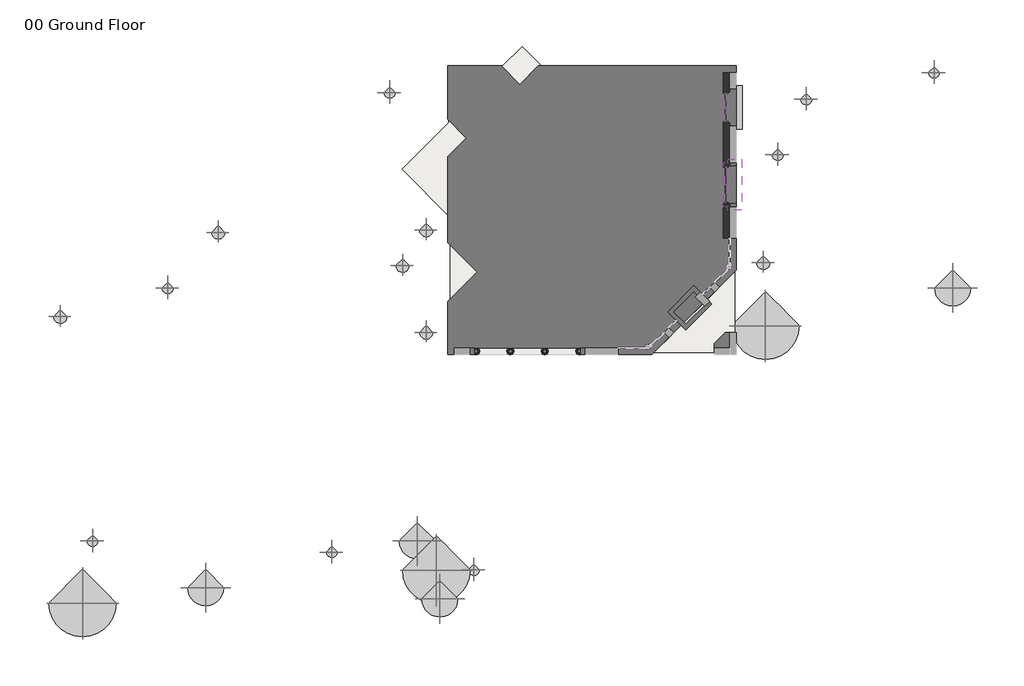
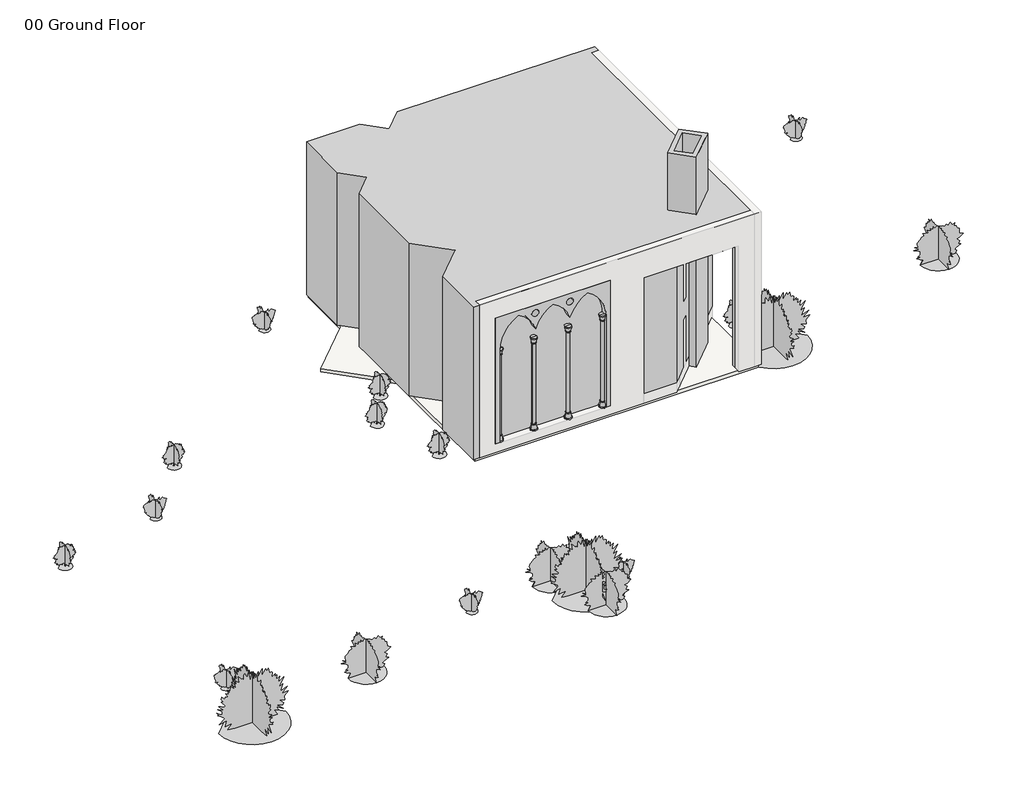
# One storey, part 3 of 3: 34 proxies, 23 members, 7 plates, 1 slab, 1 wall.
"""IFC4 building model written with IfcOpenShell, lengths in millimetres."""

from ifc_helpers import new_model, si_unit, frame, origin, place, context, project, spatial, polyline, circle_curve, faceted_brep, transform, mapped, element, save
from ifc_brep_helpers import plane_surface, revolved_surface, advanced_brep
from components import generic_models_1_generic_models_1_2ffa1991, generic_models_11_generic_models_11_82f0c10e, generic_models_13_generic_models_13_9aa85cf1, generic_models_14_generic_models_14_45f7f6e0, generic_models_20_generic_models_20_f7844d34, generic_models_3_generic_models_3_6c4ee744, generic_models_4_generic_models_3_e1f60436, generic_models_7_generic_models_7_33650070, generic_models_8_generic_models_8_d43dc7e2, generic_models_9_generic_models_9_486bed82, m_rpc_plants_9ef344a8, m_rpc_plants_e0fef716, m_rpc_plants_31e44138, m_rpc_plants_forsythia_3ae10d36, rectangular_mullion_30mm_square_41413a28, rectangular_mullion_30mm_square_532ac5bd, rectangular_mullion_30mm_square_06825e13, rectangular_mullion_30mm_square_b4bb39cd, rectangular_mullion_30mm_square_1db451a7, rectangular_mullion_30mm_square_5c3ddf4e, rectangular_mullion_30mm_square_1da41586, rectangular_mullion_30mm_square_3ebbf34c, rectangular_mullion_30mm_square_9ec87c27, rectangular_mullion_30mm_square_a0f524ba, rectangular_mullion_30mm_square_64775a34, rectangular_mullion_30mm_square_d3a41906, system_panel_glazed_b67a0a7b, system_panel_glazed_beb321c6, system_panel_glazed_12b397c3, system_panel_glazed_9344a8b1, system_panel_glazed_9038425f, system_panel_glazed_8247c2e5

model = new_model("IFC4")

# Units and contexts
model_context = context("Model", 3, world=origin())
ifc_project = project(units=[si_unit("LENGTHUNIT", "METRE", prefix="MILLI")], contexts=[model_context])

# Site, building, storey
site = spatial("IfcSite", under=ifc_project)
building = spatial("IfcBuilding", under=site)
storey = spatial("IfcBuildingStorey", under=building, Name="00 Ground Floor", Elevation=0.0)

# Proxies
placement = place(None, origin())
generic_models_1_generic_models_1_shape = generic_models_1_generic_models_1_2ffa1991(model_context)
element("IfcBuildingElementProxy", 1, Name="Generic Models 1 : Generic Models 1", ObjectType="Generic Models 1 : Generic Models 1", at=placement, inside=storey, context=model_context, shape_type="MappedRepresentation", body=[
    mapped(generic_models_1_generic_models_1_shape, transform((0.0, 0.0, 0.0), x_axis=(1.0, 0.0, 0.0), y_axis=(0.0, 1.0, 0.0), z_axis=(0.0, 0.0, 1.0))),
])
generic_models_11_generic_models_11_shape = generic_models_11_generic_models_11_82f0c10e(model_context)
element("IfcBuildingElementProxy", 2, Name="Generic Models 11 : Generic Models 11", ObjectType="Generic Models 11 : Generic Models 11", at=placement, inside=storey, context=model_context, shape_type="MappedRepresentation", body=[
    mapped(generic_models_11_generic_models_11_shape, transform((0.0, 0.0, 0.0), x_axis=(1.0, 0.0, 0.0), y_axis=(0.0, 1.0, 0.0), z_axis=(0.0, 0.0, 1.0))),
])
generic_models_13_generic_models_13_shape = generic_models_13_generic_models_13_9aa85cf1(model_context)
element("IfcBuildingElementProxy", 3, Name="Generic Models 13 : Generic Models 13", ObjectType="Generic Models 13 : Generic Models 13", at=placement, inside=storey, context=model_context, shape_type="MappedRepresentation", body=[
    mapped(generic_models_13_generic_models_13_shape, transform((-102.50588, 0.0, 0.0), x_axis=(1.0, 0.0, 0.0), y_axis=(0.0, 1.0, 0.0), z_axis=(0.0, 0.0, 1.0))),
])
generic_models_14_generic_models_14_shape = generic_models_14_generic_models_14_45f7f6e0(model_context)
element("IfcBuildingElementProxy", 4, Name="Generic Models 14 : Generic Models 14", ObjectType="Generic Models 14 : Generic Models 14", at=placement, inside=storey, context=model_context, shape_type="MappedRepresentation", body=[
    mapped(generic_models_14_generic_models_14_shape, transform((-150.0, 0.0, 0.0), x_axis=(1.0, 0.0, 0.0), y_axis=(0.0, 1.0, 0.0), z_axis=(0.0, 0.0, 1.0))),
])
generic_models_20_generic_models_20_shape = generic_models_20_generic_models_20_f7844d34(model_context)
element("IfcBuildingElementProxy", 5, Name="Generic Models 20 : Generic Models 20", ObjectType="Generic Models 20 : Generic Models 20", at=placement, inside=storey, context=model_context, shape_type="MappedRepresentation", body=[
    mapped(generic_models_20_generic_models_20_shape, transform((0.0, 0.0, 0.0), x_axis=(1.0, 0.0, 0.0), y_axis=(0.0, 1.0, 0.0), z_axis=(0.0, 0.0, 1.0))),
])
generic_models_3_generic_models_3_shape = generic_models_3_generic_models_3_6c4ee744(model_context)
element("IfcBuildingElementProxy", 6, Name="Generic Models 3 : Generic Models 3", ObjectType="Generic Models 3 : Generic Models 3", at=placement, inside=storey, context=model_context, shape_type="MappedRepresentation", body=[
    mapped(generic_models_3_generic_models_3_shape, transform((0.0, 0.0, 0.0), x_axis=(1.0, 0.0, 0.0), y_axis=(0.0, 1.0, 0.0), z_axis=(0.0, 0.0, 1.0))),
])
generic_models_4_generic_models_3_shape = generic_models_4_generic_models_3_e1f60436(model_context)
element("IfcBuildingElementProxy", 7, Name="Generic Models 4 : Generic Models 3", ObjectType="Generic Models 4 : Generic Models 3", at=placement, inside=storey, context=model_context, shape_type="MappedRepresentation", body=[
    mapped(generic_models_4_generic_models_3_shape, transform((1550.0, 0.0, 0.0), x_axis=(1.0, 0.0, 0.0), y_axis=(0.0, 1.0, 0.0), z_axis=(0.0, 0.0, 1.0))),
])
element("IfcBuildingElementProxy", 8, Name="Generic Models 5 : Generic Models 3", ObjectType="Generic Models 5 : Generic Models 3", at=placement, inside=storey, context=model_context, shape_type="MappedRepresentation", body=[
    mapped(generic_models_4_generic_models_3_shape, transform((3100.0, 0.0, 0.0), x_axis=(1.0, 0.0, 0.0), y_axis=(0.0, 1.0, 0.0), z_axis=(0.0, 0.0, 1.0))),
])
element("IfcBuildingElementProxy", 9, Name="Generic Models 6 : Generic Models 3", ObjectType="Generic Models 6 : Generic Models 3", at=placement, inside=storey, context=model_context, shape_type="MappedRepresentation", body=[
    mapped(generic_models_4_generic_models_3_shape, transform((0.0, 0.0, 0.0), x_axis=(1.0, 0.0, 0.0), y_axis=(0.0, 1.0, 0.0), z_axis=(0.0, 0.0, 1.0))),
])
generic_models_7_generic_models_7_shape = generic_models_7_generic_models_7_33650070(model_context)
element("IfcBuildingElementProxy", 10, Name="Generic Models 7 : Generic Models 7", ObjectType="Generic Models 7 : Generic Models 7", at=placement, inside=storey, context=model_context, shape_type="MappedRepresentation", body=[
    mapped(generic_models_7_generic_models_7_shape, transform((0.0, 0.0, 0.0), x_axis=(1.0, 0.0, 0.0), y_axis=(0.0, 1.0, 0.0), z_axis=(0.0, 0.0, 1.0))),
])
generic_models_8_generic_models_8_shape = generic_models_8_generic_models_8_d43dc7e2(model_context)
element("IfcBuildingElementProxy", 11, Name="Generic Models 8 : Generic Models 8", ObjectType="Generic Models 8 : Generic Models 8", at=placement, inside=storey, context=model_context, shape_type="MappedRepresentation", body=[
    mapped(generic_models_8_generic_models_8_shape, transform((0.0, 0.0, 0.0), x_axis=(1.0, 0.0, 0.0), y_axis=(0.0, 1.0, 0.0), z_axis=(0.0, 0.0, 1.0))),
])
generic_models_9_generic_models_9_shape = generic_models_9_generic_models_9_486bed82(model_context)
element("IfcBuildingElementProxy", 12, Name="Generic Models 9 : Generic Models 9", ObjectType="Generic Models 9 : Generic Models 9", at=placement, inside=storey, context=model_context, shape_type="MappedRepresentation", body=[
    mapped(generic_models_9_generic_models_9_shape, transform((0.0, 0.0, 0.0), x_axis=(1.0, 0.0, 0.0), y_axis=(0.0, 1.0, 0.0), z_axis=(0.0, 0.0, 1.0))),
])
element("IfcBuildingElementProxy", 13, Name="Ground Floor Mass : Ground Floor Mass", ObjectType="Ground Floor Mass : Ground Floor Mass", at=placement, inside=storey, context=model_context, shape_type="Brep", body=[
    faceted_brep([(2404.16295, 13000.0, 0.0), (-0.0001061, 13000.0, 0.0), (-0.0001061, 13000.0, 7281.2615574), (2404.16295, 13000.0, 7281.2615574), (-0.0001061, 10595.836944, 0.0), (-0.0001061, 10595.836944, 7281.2615574), (843.1456444, 9752.6911935, 0.0), (843.1456444, 9752.6911935, 7281.2615574), (-0.0001061, 8909.545443, 0.0), (-0.0001061, 8909.545443, 7281.2615574), (-0.0001061, 5042.6406871, 0.0), (-0.0001061, 5042.6406871, 7281.2615574), (1330.3656932, 3712.2748879, 0.0), (1330.3656932, 3712.2748879, 7281.2615574), (-0.0001061, 2381.9090886, 0.0), (-0.0001061, 2381.9090886, 7281.2615574), (-0.0001061, -0.0002183, 0.0), (-0.0001061, -0.0002183, 7281.2615574), (9192.387831, -0.0002183, 0.0), (9192.387831, -0.0002183, 6000.0), (12000.0001123, -0.0002183, 6000.0), (12000.0001123, -0.0002183, 0.0), (13000.0001123, -0.0002183, 0.0), (13000.0001123, -0.0002183, 7281.2615574), (6200.000082, -0.0002183, 6400.0), (6200.000082, -0.0002183, 400.0), (1000.000082, -0.0002183, 400.0), (1000.000082, -0.0002183, 6400.0), (13000.0001123, 999.9997817, 0.0), (13000.0001123, 999.9997817, 6000.0), (13000.0001123, 3807.6120629, 6000.0), (13000.0001123, 3807.6120629, 0.0), (13000.0001123, 13000.0, 0.0), (13000.0001123, 13000.0, 7281.2615574), (4090.454451, 13000.0, 0.0), (4090.454451, 13000.0, 7281.2615574), (3247.3087005, 12156.8542495, 0.0), (3247.3087005, 12156.8542495, 7281.2615574), (12000.0001123, 499.9997817, 0.0), (12500.0001123, 999.9997817, 0.0), (12000.0001123, 499.9997817, 6000.0), (12500.0001123, 999.9997817, 6000.0), (6200.000082, 300.0, 6400.0), (6200.000082, 300.0, 400.0), (1000.000082, 300.0, 400.0), (1000.000082, 300.0, 6400.0)], [[[0, 1, 2, 3]], [[2, 1, 4, 5]], [[5, 4, 6, 7]], [[7, 6, 8, 9]], [[9, 8, 10, 11]], [[11, 10, 12, 13]], [[13, 12, 14, 15]], [[15, 14, 16, 17]], [[17, 16, 18, 19, 20, 21, 22, 23], [24, 25, 26, 27]], [[23, 22, 28, 29, 30, 31, 32, 33]], [[33, 32, 34, 35]], [[35, 34, 36, 37]], [[0, 3, 37, 36]], [[3, 2, 5, 7, 9, 11, 13, 15, 17, 23, 33, 35, 37]], [[1, 0, 36, 34, 32, 31, 18, 16, 14, 12, 10, 8, 6, 4]], [[22, 21, 38, 39, 28]], [[30, 19, 18, 31]], [[20, 40, 38, 21]], [[40, 41, 39, 38]], [[41, 29, 28, 39]], [[19, 30, 29, 41, 40, 20]], [[24, 42, 43, 25]], [[25, 43, 44, 26]], [[26, 44, 45, 27]], [[42, 24, 27, 45]], [[43, 42, 45, 44]]]),
])
m_rpc_plants_shape = m_rpc_plants_9ef344a8(model_context)
element("IfcBuildingElementProxy", 14, Name="M_RPC Plants : Meadowlark", ObjectType="M_RPC Plants : Meadowlark", at=placement, inside=storey, context=model_context, shape_type="MappedRepresentation", body=[
    mapped(m_rpc_plants_shape, transform((-2605.4102516, 11800.0, 0.0), x_axis=(1.0, 0.0, 0.0), y_axis=(0.0, 1.0, 0.0), z_axis=(0.0, 0.0, 1.0))),
])
element("IfcBuildingElementProxy", 15, Name="M_RPC Plants : Meadowlark", ObjectType="M_RPC Plants : Meadowlark", at=placement, inside=storey, context=model_context, shape_type="MappedRepresentation", body=[
    mapped(m_rpc_plants_shape, transform((14857.879689, 9000.0, -150.0), x_axis=(1.0, 0.0, 0.0), y_axis=(0.0, 1.0, 0.0), z_axis=(0.0, 0.0, 1.0))),
])
element("IfcBuildingElementProxy", 16, Name="M_RPC Plants : Meadowlark", ObjectType="M_RPC Plants : Meadowlark", at=placement, inside=storey, context=model_context, shape_type="MappedRepresentation", body=[
    mapped(m_rpc_plants_shape, transform((16143.9359249, 11500.0, 80.0), x_axis=(1.0, 0.0, 0.0), y_axis=(0.0, 1.0, 0.0), z_axis=(0.0, 0.0, 1.0))),
])
element("IfcBuildingElementProxy", 17, Name="M_RPC Plants : Meadowlark", ObjectType="M_RPC Plants : Meadowlark", at=placement, inside=storey, context=model_context, shape_type="MappedRepresentation", body=[
    mapped(m_rpc_plants_shape, transform((21892.3880493, 12700.0, 0.0), x_axis=(1.0, 0.0, 0.0), y_axis=(0.0, 1.0, 0.0), z_axis=(0.0, 0.0, 1.0))),
])
element("IfcBuildingElementProxy", 18, Name="M_RPC Plants : Meadowlark", ObjectType="M_RPC Plants : Meadowlark", at=placement, inside=storey, context=model_context, shape_type="MappedRepresentation", body=[
    mapped(m_rpc_plants_shape, transform((-12591.9884741, 2999.9997817, -150.0), x_axis=(1.0, 0.0, 0.0), y_axis=(0.0, 1.0, 0.0), z_axis=(0.0, 0.0, 1.0))),
])
element("IfcBuildingElementProxy", 19, Name="M_RPC Plants : Meadowlark", ObjectType="M_RPC Plants : Meadowlark", at=placement, inside=storey, context=model_context, shape_type="MappedRepresentation", body=[
    mapped(m_rpc_plants_shape, transform((-15980.8610869, -8400.0, -150.0), x_axis=(1.0, 0.0, 0.0), y_axis=(0.0, 1.0, 0.0), z_axis=(0.0, 0.0, 1.0))),
])
element("IfcBuildingElementProxy", 20, Name="M_RPC Plants : Meadowlark", ObjectType="M_RPC Plants : Meadowlark", at=placement, inside=storey, context=model_context, shape_type="MappedRepresentation", body=[
    mapped(m_rpc_plants_shape, transform((-5204.2461784, -8900.0, 10.0), x_axis=(1.0, 0.0, 0.0), y_axis=(0.0, 1.0, 0.0), z_axis=(0.0, 0.0, 1.0))),
])
element("IfcBuildingElementProxy", 21, Name="M_RPC Plants : Meadowlark", ObjectType="M_RPC Plants : Meadowlark", at=placement, inside=storey, context=model_context, shape_type="MappedRepresentation", body=[
    mapped(m_rpc_plants_shape, transform((1186.2653021, -9700.0, -230.0), x_axis=(1.0, 0.0, 0.0), y_axis=(0.0, 1.0, 0.0), z_axis=(0.0, 0.0, 1.0))),
])
m_rpc_plants_2_shape = m_rpc_plants_e0fef716(model_context)
element("IfcBuildingElementProxy", 22, Name="M_RPC Plants : Oleander", ObjectType="M_RPC Plants : Oleander", at=placement, inside=storey, context=model_context, shape_type="MappedRepresentation", body=[
    mapped(m_rpc_plants_2_shape, transform((22729.9608569, 2999.9997817, -200.0), x_axis=(1.0, 0.0, 0.0), y_axis=(0.0, 1.0, 0.0), z_axis=(0.0, 0.0, 1.0))),
])
element("IfcBuildingElementProxy", 23, Name="M_RPC Plants : Oleander", ObjectType="M_RPC Plants : Oleander", at=placement, inside=storey, context=model_context, shape_type="MappedRepresentation", body=[
    mapped(m_rpc_plants_2_shape, transform((-10887.6554614, -10500.0, 40.0), x_axis=(1.0, 0.0, 0.0), y_axis=(0.0, 1.0, 0.0), z_axis=(0.0, 0.0, 1.0))),
])
element("IfcBuildingElementProxy", 24, Name="M_RPC Plants : Oleander", ObjectType="M_RPC Plants : Oleander", at=placement, inside=storey, context=model_context, shape_type="MappedRepresentation", body=[
    mapped(m_rpc_plants_2_shape, transform((-1354.6687985, -8400.0, -200.0), x_axis=(1.0, 0.0, 0.0), y_axis=(0.0, 1.0, 0.0), z_axis=(0.0, 0.0, 1.0))),
])
element("IfcBuildingElementProxy", 25, Name="M_RPC Plants : Oleander", ObjectType="M_RPC Plants : Oleander", at=placement, inside=storey, context=model_context, shape_type="MappedRepresentation", body=[
    mapped(m_rpc_plants_2_shape, transform((-345.6074496, -11005.9532038, -120.0), x_axis=(1.0, 0.0, 0.0), y_axis=(0.0, 1.0, 0.0), z_axis=(0.0, 0.0, 1.0))),
])
m_rpc_plants_3_shape = m_rpc_plants_31e44138(model_context)
element("IfcBuildingElementProxy", 26, Name="M_RPC Plants : Jungel Flame", ObjectType="M_RPC Plants : Jungel Flame", at=placement, inside=storey, context=model_context, shape_type="MappedRepresentation", body=[
    mapped(m_rpc_plants_3_shape, transform((14212.2471578, 4131.8761316, -1010.0), x_axis=(1.0, 0.0, 0.0), y_axis=(0.0, 1.0, 0.0), z_axis=(0.0, 0.0, 1.0))),
])
element("IfcBuildingElementProxy", 27, Name="M_RPC Plants : Jungel Flame", ObjectType="M_RPC Plants : Jungel Flame", at=placement, inside=storey, context=model_context, shape_type="MappedRepresentation", body=[
    mapped(m_rpc_plants_3_shape, transform((-960.2287101, 5601.9259427, 0.0), x_axis=(1.0, 0.0, 0.0), y_axis=(0.0, 1.0, 0.0), z_axis=(0.0, 0.0, 1.0))),
])
element("IfcBuildingElementProxy", 28, Name="M_RPC Plants : Jungel Flame", ObjectType="M_RPC Plants : Jungel Flame", at=placement, inside=storey, context=model_context, shape_type="MappedRepresentation", body=[
    mapped(m_rpc_plants_3_shape, transform((-2028.3586271, 4001.9259427, 0.0), x_axis=(1.0, 0.0, 0.0), y_axis=(0.0, 1.0, 0.0), z_axis=(0.0, 0.0, 1.0))),
])
element("IfcBuildingElementProxy", 29, Name="M_RPC Plants : Jungel Flame", ObjectType="M_RPC Plants : Jungel Flame", at=placement, inside=storey, context=model_context, shape_type="MappedRepresentation", body=[
    mapped(m_rpc_plants_3_shape, transform((-959.571287, 998.073839, 0.0), x_axis=(1.0, 0.0, 0.0), y_axis=(0.0, 1.0, 0.0), z_axis=(0.0, 0.0, 1.0))),
])
element("IfcBuildingElementProxy", 30, Name="M_RPC Plants : Jungel Flame", ObjectType="M_RPC Plants : Jungel Flame", at=placement, inside=storey, context=model_context, shape_type="MappedRepresentation", body=[
    mapped(m_rpc_plants_3_shape, transform((-10321.7476672, 5500.0, 0.0), x_axis=(1.0, 0.0, 0.0), y_axis=(0.0, 1.0, 0.0), z_axis=(0.0, 0.0, 1.0))),
])
element("IfcBuildingElementProxy", 31, Name="M_RPC Plants : Jungel Flame", ObjectType="M_RPC Plants : Jungel Flame", at=placement, inside=storey, context=model_context, shape_type="MappedRepresentation", body=[
    mapped(m_rpc_plants_3_shape, transform((-17428.9005499, 1700.0, 0.0), x_axis=(1.0, 0.0, 0.0), y_axis=(0.0, 1.0, 0.0), z_axis=(0.0, 0.0, 1.0))),
])
m_rpc_plants_forsythia_shape = m_rpc_plants_forsythia_3ae10d36(model_context)
element("IfcBuildingElementProxy", 32, Name="M_RPC Plants : Forsythia", ObjectType="M_RPC Plants : Forsythia", at=placement, inside=storey, context=model_context, shape_type="MappedRepresentation", body=[
    mapped(m_rpc_plants_forsythia_shape, transform((14304.16295, 1299.84375, -380.0), x_axis=(1.0, 0.0, 0.0), y_axis=(0.0, 1.0, 0.0), z_axis=(0.0, 0.0, 1.0))),
])
element("IfcBuildingElementProxy", 33, Name="M_RPC Plants : Forsythia", ObjectType="M_RPC Plants : Forsythia", at=placement, inside=storey, context=model_context, shape_type="MappedRepresentation", body=[
    mapped(m_rpc_plants_forsythia_shape, transform((-16432.5902868, -11200.0, 20.0), x_axis=(1.0, 0.0, 0.0), y_axis=(0.0, 1.0, 0.0), z_axis=(0.0, 0.0, 1.0))),
])
element("IfcBuildingElementProxy", 34, Name="M_RPC Plants : Forsythia", ObjectType="M_RPC Plants : Forsythia", at=placement, inside=storey, context=model_context, shape_type="MappedRepresentation", body=[
    mapped(m_rpc_plants_forsythia_shape, transform((-507.6119506, -9700.0, -140.0), x_axis=(1.0, 0.0, 0.0), y_axis=(0.0, 1.0, 0.0), z_axis=(0.0, 0.0, 1.0))),
])

# Members
rectangular_mullion_30mm_square_shape = rectangular_mullion_30mm_square_41413a28(model_context)
element("IfcMember", 35, ObjectType="Rectangular Mullion : 30mm Square", at=placement, inside=storey, context=model_context, shape_type="MappedRepresentation", body=[
    mapped(rectangular_mullion_30mm_square_shape, transform((12510.0001123, 11128.4977909, 2150.8333333), x_axis=(0.0, -1.0, 0.0), y_axis=(-1.0, 0.0, 0.0), z_axis=(0.0, 0.0, -1.0))),
])
rectangular_mullion_30mm_square_2_shape = rectangular_mullion_30mm_square_532ac5bd(model_context)
element("IfcMember", 36, ObjectType="Rectangular Mullion : 30mm Square", at=placement, inside=storey, context=model_context, shape_type="MappedRepresentation", body=[
    mapped(rectangular_mullion_30mm_square_2_shape, transform((12510.0001123, 11128.4977909, 1150.0), x_axis=(0.0, -1.0, 0.0), y_axis=(-1.0, 0.0, 0.0), z_axis=(0.0, 0.0, -1.0))),
])
rectangular_mullion_30mm_square_3_shape = rectangular_mullion_30mm_square_06825e13(model_context)
element("IfcMember", 37, ObjectType="Rectangular Mullion : 30mm Square", at=placement, inside=storey, context=model_context, shape_type="MappedRepresentation", body=[
    mapped(rectangular_mullion_30mm_square_3_shape, transform((12510.0001123, 10482.5626898, 1100.0), x_axis=(0.0, -1.0, 0.0), y_axis=(-1.0, 0.0, 0.0), z_axis=(0.0, 0.0, -1.0))),
])
rectangular_mullion_30mm_square_4_shape = rectangular_mullion_30mm_square_b4bb39cd(model_context)
element("IfcMember", 38, ObjectType="Rectangular Mullion : 30mm Square", at=placement, inside=storey, context=model_context, shape_type="MappedRepresentation", body=[
    mapped(rectangular_mullion_30mm_square_4_shape, transform((12510.0001123, 10482.5626898, 2073.3333333), x_axis=(0.0, -1.0, 0.0), y_axis=(-1.0, 0.0, 0.0), z_axis=(0.0, 0.0, -1.0))),
])
rectangular_mullion_30mm_square_5_shape = rectangular_mullion_30mm_square_1db451a7(model_context)
element("IfcMember", 39, ObjectType="Rectangular Mullion : 30mm Square", at=placement, inside=storey, context=model_context, shape_type="MappedRepresentation", body=[
    mapped(rectangular_mullion_30mm_square_5_shape, transform((12510.0001123, 10482.5626898, 2125.8333333), x_axis=(0.0, -1.0, 0.0), y_axis=(-1.0, 0.0, 0.0), z_axis=(0.0, 0.0, -1.0))),
])
element("IfcMember", 40, ObjectType="Rectangular Mullion : 30mm Square", at=placement, inside=storey, context=model_context, shape_type="MappedRepresentation", body=[
    mapped(rectangular_mullion_30mm_square_3_shape, transform((12510.0001123, 11778.4977909, 2073.3333333), x_axis=(0.0, 1.0, 0.0), y_axis=(-1.0, 0.0, 0.0), z_axis=(0.0, 0.0, 1.0))),
])
element("IfcMember", 41, ObjectType="Rectangular Mullion : 30mm Square", at=placement, inside=storey, context=model_context, shape_type="MappedRepresentation", body=[
    mapped(rectangular_mullion_30mm_square_5_shape, transform((12510.0001123, 11778.4977909, 2650.0), x_axis=(0.0, 1.0, 0.0), y_axis=(-1.0, 0.0, 0.0), z_axis=(0.0, 0.0, 1.0))),
])
element("IfcMember", 42, ObjectType="Rectangular Mullion : 30mm Square", at=placement, inside=storey, context=model_context, shape_type="MappedRepresentation", body=[
    mapped(rectangular_mullion_30mm_square_4_shape, transform((12510.0001123, 11778.4977909, 2125.8333333), x_axis=(0.0, 1.0, 0.0), y_axis=(-1.0, 0.0, 0.0), z_axis=(0.0, 0.0, 1.0))),
])
rectangular_mullion_30mm_square_6_shape = rectangular_mullion_30mm_square_5c3ddf4e(model_context)
element("IfcMember", 43, ObjectType="Rectangular Mullion : 30mm Square", at=placement, inside=storey, context=model_context, shape_type="MappedRepresentation", body=[
    mapped(rectangular_mullion_30mm_square_6_shape, transform((12517.4942322, 6846.7661592, 2650.0), x_axis=(0.0, 0.0, 1.0), y_axis=(-1.0, 0.0, 0.0), z_axis=(0.0, -1.0, 0.0))),
])
element("IfcMember", 44, ObjectType="Rectangular Mullion : 30mm Square", at=placement, inside=storey, context=model_context, shape_type="MappedRepresentation", body=[
    mapped(rectangular_mullion_30mm_square_6_shape, transform((12517.4942322, 7642.6319751, 2650.0), x_axis=(0.0, 0.0, 1.0), y_axis=(-1.0, 0.0, 0.0), z_axis=(0.0, -1.0, 0.0))),
])
rectangular_mullion_30mm_square_7_shape = rectangular_mullion_30mm_square_1da41586(model_context)
element("IfcMember", 45, ObjectType="Rectangular Mullion : 30mm Square", at=placement, inside=storey, context=model_context, shape_type="MappedRepresentation", body=[
    mapped(rectangular_mullion_30mm_square_7_shape, transform((12517.4942322, 6846.7661592, 150.0), x_axis=(0.0, -1.0, 0.0), y_axis=(-1.0, 0.0, 0.0), z_axis=(0.0, 0.0, -1.0))),
])
element("IfcMember", 46, ObjectType="Rectangular Mullion : 30mm Square", at=placement, inside=storey, context=model_context, shape_type="MappedRepresentation", body=[
    mapped(rectangular_mullion_30mm_square_7_shape, transform((12517.4942322, 8438.4977909, 2600.0), x_axis=(0.0, 1.0, 0.0), y_axis=(-1.0, 0.0, 0.0), z_axis=(0.0, 0.0, 1.0))),
])
element("IfcMember", 47, ObjectType="Rectangular Mullion : 30mm Square", at=placement, inside=storey, context=model_context, shape_type="MappedRepresentation", body=[
    mapped(rectangular_mullion_30mm_square_6_shape, transform((12517.4942322, 8438.4977909, 100.0), x_axis=(0.0, 0.0, -1.0), y_axis=(-1.0, 0.0, 0.0), z_axis=(0.0, 1.0, 0.0))),
])
element("IfcMember", 48, ObjectType="Rectangular Mullion : 30mm Square", at=placement, inside=storey, context=model_context, shape_type="MappedRepresentation", body=[
    mapped(rectangular_mullion_30mm_square_6_shape, transform((12517.4942322, 7642.6319751, 100.0), x_axis=(0.0, 0.0, -1.0), y_axis=(-1.0, 0.0, 0.0), z_axis=(0.0, 1.0, 0.0))),
])
rectangular_mullion_30mm_square_8_shape = rectangular_mullion_30mm_square_3ebbf34c(model_context)
element("IfcMember", 49, ObjectType="Rectangular Mullion : 30mm Square", at=placement, inside=storey, context=model_context, shape_type="MappedRepresentation", body=[
    mapped(rectangular_mullion_30mm_square_8_shape, transform((12517.4942322, 7642.6319751, 150.0), x_axis=(0.0, -1.0, 0.0), y_axis=(-1.0, 0.0, 0.0), z_axis=(0.0, 0.0, -1.0))),
])
rectangular_mullion_30mm_square_9_shape = rectangular_mullion_30mm_square_9ec87c27(model_context)
element("IfcMember", 50, ObjectType="Rectangular Mullion : 30mm Square", at=placement, inside=storey, context=model_context, shape_type="MappedRepresentation", body=[
    mapped(rectangular_mullion_30mm_square_9_shape, transform((12510.0001123, 10532.5626898, 2650.0), x_axis=(0.0, 0.0, 1.0), y_axis=(-1.0, 0.0, 0.0), z_axis=(0.0, -1.0, 0.0))),
])
element("IfcMember", 51, ObjectType="Rectangular Mullion : 30mm Square", at=placement, inside=storey, context=model_context, shape_type="MappedRepresentation", body=[
    mapped(rectangular_mullion_30mm_square_9_shape, transform((12510.0001123, 11128.4977909, 1100.0), x_axis=(0.0, 0.0, -1.0), y_axis=(-1.0, 0.0, 0.0), z_axis=(0.0, 1.0, 0.0))),
])
rectangular_mullion_30mm_square_10_shape = rectangular_mullion_30mm_square_a0f524ba(model_context)
element("IfcMember", 52, ObjectType="Rectangular Mullion : 30mm Square", at=placement, inside=storey, context=model_context, shape_type="MappedRepresentation", body=[
    mapped(rectangular_mullion_30mm_square_10_shape, transform((12510.0001123, 10532.5626898, 2125.8333333), x_axis=(0.0, 0.0, 1.0), y_axis=(-1.0, 0.0, 0.0), z_axis=(0.0, -1.0, 0.0))),
])
element("IfcMember", 53, ObjectType="Rectangular Mullion : 30mm Square", at=placement, inside=storey, context=model_context, shape_type="MappedRepresentation", body=[
    mapped(rectangular_mullion_30mm_square_10_shape, transform((12510.0001123, 10532.5626898, 2073.3333333), x_axis=(0.0, 0.0, 1.0), y_axis=(-1.0, 0.0, 0.0), z_axis=(0.0, -1.0, 0.0))),
])
rectangular_mullion_30mm_square_11_shape = rectangular_mullion_30mm_square_64775a34(model_context)
element("IfcMember", 54, ObjectType="Rectangular Mullion : 30mm Square", at=placement, inside=storey, context=model_context, shape_type="MappedRepresentation", body=[
    mapped(rectangular_mullion_30mm_square_11_shape, transform((12510.0001123, 11128.4977909, 2650.0), x_axis=(0.0, 0.0, 1.0), y_axis=(-1.0, 0.0, 0.0), z_axis=(0.0, -1.0, 0.0))),
])
element("IfcMember", 55, ObjectType="Rectangular Mullion : 30mm Square", at=placement, inside=storey, context=model_context, shape_type="MappedRepresentation", body=[
    mapped(rectangular_mullion_30mm_square_11_shape, transform((12510.0001123, 11728.4977909, 1100.0), x_axis=(0.0, 0.0, -1.0), y_axis=(-1.0, 0.0, 0.0), z_axis=(0.0, 1.0, 0.0))),
])
rectangular_mullion_30mm_square_12_shape = rectangular_mullion_30mm_square_d3a41906(model_context)
element("IfcMember", 56, ObjectType="Rectangular Mullion : 30mm Square", at=placement, inside=storey, context=model_context, shape_type="MappedRepresentation", body=[
    mapped(rectangular_mullion_30mm_square_12_shape, transform((12510.0001123, 11128.4977909, 2125.8333333), x_axis=(0.0, 0.0, 1.0), y_axis=(-1.0, 0.0, 0.0), z_axis=(0.0, -1.0, 0.0))),
])
element("IfcMember", 57, ObjectType="Rectangular Mullion : 30mm Square", at=placement, inside=storey, context=model_context, shape_type="MappedRepresentation", body=[
    mapped(rectangular_mullion_30mm_square_12_shape, transform((12510.0001123, 11128.4977909, 2073.3333333), x_axis=(0.0, 0.0, 1.0), y_axis=(-1.0, 0.0, 0.0), z_axis=(0.0, -1.0, 0.0))),
])

# Plates
system_panel_glazed_shape = system_panel_glazed_b67a0a7b(model_context)
element("IfcPlate", 58, ObjectType="System Panel : Glazed", at=placement, inside=storey, context=model_context, shape_type="MappedRepresentation", body=[
    mapped(system_panel_glazed_shape, transform((12517.4942322, 8028.064883, 150.0), x_axis=(0.0, -1.0, 0.0), y_axis=(1.0, 0.0, 0.0), z_axis=(0.0, 0.0, 1.0))),
])
element("IfcPlate", 59, ObjectType="System Panel : Glazed", at=placement, inside=storey, context=model_context, shape_type="MappedRepresentation", body=[
    mapped(system_panel_glazed_shape, transform((12517.4942322, 7257.1990672, 150.0), x_axis=(0.0, -1.0, 0.0), y_axis=(1.0, 0.0, 0.0), z_axis=(0.0, 0.0, 1.0))),
])
system_panel_glazed_2_shape = system_panel_glazed_beb321c6(model_context)
element("IfcPlate", 60, ObjectType="System Panel : Glazed", at=placement, inside=storey, context=model_context, shape_type="MappedRepresentation", body=[
    mapped(system_panel_glazed_2_shape, transform((12510.0001123, 10818.0302404, 1150.0), x_axis=(0.0, -1.0, 0.0), y_axis=(1.0, 0.0, 0.0), z_axis=(0.0, 0.0, 1.0))),
])
system_panel_glazed_3_shape = system_panel_glazed_12b397c3(model_context)
element("IfcPlate", 61, ObjectType="System Panel : Glazed", at=placement, inside=storey, context=model_context, shape_type="MappedRepresentation", body=[
    mapped(system_panel_glazed_3_shape, transform((12510.0001123, 10818.0302404, 2150.8333333), x_axis=(0.0, -1.0, 0.0), y_axis=(1.0, 0.0, 0.0), z_axis=(0.0, 0.0, 1.0))),
])
system_panel_glazed_4_shape = system_panel_glazed_9344a8b1(model_context)
element("IfcPlate", 62, ObjectType="System Panel : Glazed", at=placement, inside=storey, context=model_context, shape_type="MappedRepresentation", body=[
    mapped(system_panel_glazed_4_shape, transform((12510.0001123, 11440.9977909, 1150.0), x_axis=(0.0, -1.0, 0.0), y_axis=(1.0, 0.0, 0.0), z_axis=(0.0, 0.0, 1.0))),
])
system_panel_glazed_5_shape = system_panel_glazed_9038425f(model_context)
element("IfcPlate", 63, ObjectType="System Panel : Glazed", at=placement, inside=storey, context=model_context, shape_type="MappedRepresentation", body=[
    mapped(system_panel_glazed_5_shape, transform((12510.0001123, 11440.9977909, 2150.8333333), x_axis=(0.0, -1.0, 0.0), y_axis=(1.0, 0.0, 0.0), z_axis=(0.0, 0.0, 1.0))),
])
system_panel_glazed_6_shape = system_panel_glazed_8247c2e5(model_context)
element("IfcPlate", 64, ObjectType="System Panel : Glazed", at=placement, inside=storey, context=model_context, shape_type="MappedRepresentation", body=[
    mapped(system_panel_glazed_6_shape, transform((12510.0001123, 11130.5302404, 2098.3333333), x_axis=(0.0, -1.0, 0.0), y_axis=(1.0, 0.0, 0.0), z_axis=(0.0, 0.0, 1.0))),
])

# Slab
element("IfcSlab", 65, ObjectType="Generic 150mm", at=placement, inside=storey, context=model_context, shape_type="Brep", body=[
    faceted_brep([(2488.3224166, 13000.0, -150.0), (3360.1261598, 13871.8037432, -150.0), (4291.9299029, 12940.0, -150.0), (12920.0001123, 12940.0, -150.0), (12920.0001123, 12800.0, -150.0), (12920.0001123, 199.9998004, -150.0), (12920.0001123, 79.9997817, -150.0), (119.9998939, 79.9997817, -150.0), (119.9998939, 6176.8506597, -150.0), (-2047.4135147, 8344.2640683, -150.0), (59.9998939, 10451.6774773, -150.0), (59.9998939, 13000.0, -150.0), (2488.3224166, 13000.0, 0.0), (59.9998939, 13000.0, 0.0), (59.9998939, 10451.6774773, 0.0), (-2047.4135147, 8344.2640683, 0.0), (119.9998939, 6176.8506597, 0.0), (119.9998939, 79.9997817, 0.0), (12920.0001123, 79.9997817, 0.0), (12920.0001123, 199.9998004, 0.0), (12920.0001123, 12800.0, 0.0), (12920.0001123, 12940.0, 0.0), (4291.9299029, 12940.0, 0.0), (3360.1261598, 13871.8037432, 0.0)], [[[0, 1, 2, 3, 4, 5, 6, 7, 8, 9, 10, 11]], [[12, 13, 14, 15, 16, 17, 18, 19, 20, 21, 22, 23]], [[0, 11, 13, 12]], [[6, 5, 4, 3, 21, 20, 19, 18]], [[7, 6, 18, 17]], [[8, 7, 17, 16]], [[1, 0, 12, 23]], [[2, 1, 23, 22]], [[3, 2, 22, 21]], [[9, 8, 16, 15]], [[10, 9, 15, 14]], [[11, 10, 14, 13]]]),
])

# Wall
element("IfcWall", 66, ObjectType="Generic - 300mm", at=placement, inside=storey, context=model_context, shape_type="AdvancedBrep", body=[
    advanced_brep(
    [(12400.0001123, 12700.0, 0.0), (12400.0001123, 5250.511329, 0.0), (12400.0001123, 5250.511329, 6300.0), (12400.0001123, 12700.0, 6300.0), (12400.0001123, 11828.4977909, 2700.0), (12400.0001123, 10428.4977909, 2700.0), (12400.0001123, 10428.4977909, 1050.0), (12400.0001123, 11828.4977909, 1050.0), (12400.0001123, 10482.5626898, 3300.0), (12400.0001123, 11778.4977909, 3300.0), (12400.0001123, 11778.4977909, 4587.5644347), (12400.0001123, 11128.4977909, 5741.9040728), (12400.0001123, 10482.5626898, 4692.2482609), (12400.0001123, 8496.7661592, 5500.0), (12400.0001123, 6796.7661592, 5500.0), (12400.0001123, 6796.7661592, 3400.0), (12400.0001123, 6846.7661592, 3400.0), (12400.0001123, 8438.4977909, 3400.0), (12400.0001123, 8496.7661592, 3400.0), (12400.0001123, 8496.7661592, 2700.0), (12400.0001123, 6796.7661592, 2700.0), (12400.0001123, 6796.7661592, 100.0), (12400.0001123, 6846.7661592, 100.0), (12400.0001123, 8438.4977909, 100.0), (12400.0001123, 8496.7661592, 100.0), (12700.0001123, 5250.511329, 0.0), (12700.0001123, 6646.7661592, 0.0), (12700.0001123, 8646.7661592, 0.0), (12700.0001123, 12700.0, 0.0), (12700.0001123, 12700.0, 6300.0), (12700.0001123, 5250.511329, 6300.0), (12700.0001123, 5250.511329, 6000.0), (12700.0001123, 10428.4977909, 2700.0), (12700.0001123, 11828.4977909, 2700.0), (12700.0001123, 11828.4977909, 1325.0), (12700.0001123, 11828.4977909, 1300.0), (12700.0001123, 11828.4977909, 1199.8374951), (12700.0001123, 11828.4977909, 1050.0), (12700.0001123, 10428.4977909, 1050.0), (12700.0001123, 10428.4977909, 1199.8374951), (12700.0001123, 10428.4977909, 1300.0), (12700.0001123, 10428.4977909, 1325.0), (12700.0001123, 11778.4977909, 3300.0), (12700.0001123, 10482.5626898, 3300.0), (12700.0001123, 10482.5626898, 4536.4427466), (12700.0001123, 10482.5626898, 4587.5644347), (12700.0001123, 10482.5626898, 4692.2482609), (12700.0001123, 11128.4977909, 5741.9040728), (12700.0001123, 11778.4977909, 4587.5644347), (12700.0001123, 11778.4977909, 4531.1053313), (12700.0001123, 6796.7661592, 5500.0), (12700.0001123, 8496.7661592, 5500.0), (12700.0001123, 8496.7661592, 3400.0), (12700.0001123, 8438.4977909, 3400.0), (12700.0001123, 6846.7661592, 3400.0), (12700.0001123, 6796.7661592, 3400.0), (12700.0001123, 6796.7661592, 2700.0), (12700.0001123, 8496.7661592, 2700.0), (12700.0001123, 8496.7661592, 100.0), (12700.0001123, 8438.4977909, 100.0), (12700.0001123, 6846.7661592, 100.0), (12700.0001123, 6796.7661592, 100.0), (12619.0651245, 10428.4977909, 1050.0), (12619.0651245, 11828.4977909, 1050.0)],
    [
        (0, 1),
        (1, 2),
        (2, 3),
        (3, 0),
        (4, 5),
        (5, 6),
        (6, 7),
        (7, 4),
        (8, 9),
        (9, 10),
        (10, 11, circle_curve(frame((12400.0001123, 10428.4977909, 4587.5644347), z_axis=(1.0, 0.0, 0.0), x_axis=(0.0, 1.0, 0.0)), 1350.0)),
        (11, 12, circle_curve(frame((12400.0001123, 11828.4977909, 4587.5644347), z_axis=(1.0, 0.0, 0.0), x_axis=(0.0, 1.0, 0.0)), 1350.0)),
        (12, 8),
        (13, 14),
        (14, 15),
        (15, 16),
        (16, 17),
        (17, 18),
        (18, 13),
        (19, 20),
        (20, 21),
        (21, 22),
        (22, 23),
        (23, 24),
        (24, 19),
        (25, 26),
        (26, 27),
        (27, 28),
        (28, 29),
        (29, 30),
        (30, 31),
        (31, 25),
        (32, 33),
        (33, 34),
        (34, 35),
        (35, 36),
        (36, 37),
        (37, 38),
        (38, 39),
        (39, 40),
        (40, 41),
        (41, 32),
        (42, 43),
        (43, 44),
        (44, 45),
        (45, 46),
        (46, 47, circle_curve(frame((12700.0001123, 11828.4977909, 4587.5644347), z_axis=(-1.0, 0.0, 0.0), x_axis=(0.0, 1.0, 0.0)), 1350.0)),
        (47, 48, circle_curve(frame((12700.0001123, 10428.4977909, 4587.5644347), z_axis=(-1.0, 0.0, 0.0), x_axis=(0.0, 1.0, 0.0)), 1350.0)),
        (48, 49),
        (49, 42),
        (50, 51),
        (51, 52),
        (52, 53),
        (53, 54),
        (54, 55),
        (55, 50),
        (56, 57),
        (57, 58),
        (58, 59),
        (59, 60),
        (60, 61),
        (61, 56),
        (3, 29),
        (28, 0),
        (25, 1),
        (2, 30),
        (4, 33),
        (32, 5),
        (38, 62),
        (62, 6),
        (37, 63),
        (63, 7),
        (8, 43),
        (42, 9),
        (48, 10),
        (47, 11),
        (46, 12),
        (13, 51),
        (50, 14),
        (55, 15),
        (52, 18),
        (19, 57),
        (56, 20),
        (61, 21),
        (58, 24),
    ],
    [
        plane_surface(frame((12400.0001123, 12680.5172991, 0.0), z_axis=(-1.0, 0.0, 0.0), x_axis=(0.0, -1.0, 0.0))),
        plane_surface(frame((12700.0001123, 12680.5172991, 0.0), z_axis=(1.0, 0.0, 0.0), x_axis=(0.0, 1.0, 0.0))),
        plane_surface(frame((13000.0001123, 12700.0, 0.0), z_axis=(0.0, 1.0, 0.0), x_axis=(1.0, 0.0, 0.0))),
        plane_surface(frame((12400.0001123, 12850.0, 0.0), z_axis=(0.0, 0.0, -1.0), x_axis=(1.0, 0.0, 0.0))),
        plane_surface(frame((12400.0001123, 5250.511329, 6300.0), z_axis=(0.0, 0.0, 1.0), x_axis=(1.0, 0.0, 0.0))),
        plane_surface(frame((12400.0001123, 5250.511329, 0.0), z_axis=(0.0, -1.0, 0.0), x_axis=(1.0, 0.0, 0.0))),
        plane_surface(frame((12400.0001123, 11828.4977909, 2700.0), z_axis=(0.0, 0.0, -1.0), x_axis=(1.0, 0.0, 0.0))),
        plane_surface(frame((12400.0001123, 10428.4977909, 2700.0), z_axis=(0.0, 1.0, 0.0), x_axis=(1.0, 0.0, 0.0))),
        plane_surface(frame((12400.0001123, 10428.4977909, 1050.0), z_axis=(0.0, 0.0, 1.0), x_axis=(1.0, 0.0, 0.0))),
        plane_surface(frame((12400.0001123, 11828.4977909, 1050.0), z_axis=(0.0, -1.0, 0.0), x_axis=(1.0, 0.0, 0.0))),
        plane_surface(frame((12852.4001123, 10482.5626898, 3300.0), z_axis=(0.0, 0.0, 1.0), x_axis=(-1.0, 0.0, 0.0))),
        plane_surface(frame((12852.4001123, 11778.4977909, 3300.0), z_axis=(0.0, -1.0, 0.0), x_axis=(-1.0, 0.0, 0.0))),
        revolved_surface(polyline([(12700.0001123, 11778.4977909, 4587.5644347), (12400.0001123, 11778.4977909, 4587.5644347)]), (12527.3001123, 10428.4977909, 4587.5644347), (1.0, 0.0, 0.0)),
        revolved_surface(polyline([(12700.0001123, 13178.4977909, 4587.5644347), (12400.0001123, 13178.4977909, 4587.5644347)]), (12527.3001123, 11828.4977909, 4587.5644347), (1.0, 0.0, 0.0)),
        plane_surface(frame((12852.4001123, 10482.5626898, 4692.2482609), z_axis=(0.0, 1.0, 0.0), x_axis=(-1.0, 0.0, 0.0))),
        plane_surface(frame((12400.0001123, 8496.7661592, 5500.0), z_axis=(0.0, 0.0, -1.0), x_axis=(1.0, 0.0, 0.0))),
        plane_surface(frame((12400.0001123, 6796.7661592, 5500.0), z_axis=(0.0, 1.0, 0.0), x_axis=(1.0, 0.0, 0.0))),
        plane_surface(frame((12400.0001123, 6796.7661592, 3400.0), z_axis=(0.0, 0.0, 1.0), x_axis=(1.0, 0.0, 0.0))),
        plane_surface(frame((12400.0001123, 8496.7661592, 3400.0), z_axis=(0.0, -1.0, 0.0), x_axis=(1.0, 0.0, 0.0))),
        plane_surface(frame((12400.0001123, 8496.7661592, 2700.0), z_axis=(0.0, 0.0, -1.0), x_axis=(1.0, 0.0, 0.0))),
        plane_surface(frame((12400.0001123, 6796.7661592, 2700.0), z_axis=(0.0, 1.0, 0.0), x_axis=(1.0, 0.0, 0.0))),
        plane_surface(frame((12400.0001123, 6796.7661592, 100.0), z_axis=(0.0, 0.0, 1.0), x_axis=(1.0, 0.0, 0.0))),
        plane_surface(frame((12400.0001123, 8496.7661592, 100.0), z_axis=(0.0, -1.0, 0.0), x_axis=(1.0, 0.0, 0.0))),
    ],
    [
        (0, [[1, 2, 3, 4], [5, 6, 7, 8], [9, 10, 11, 12, 13], [14, 15, 16, 17, 18, 19], [20, 21, 22, 23, 24, 25]]),
        (1, [[26, 27, 28, 29, 30, 31, 32], [33, 34, 35, 36, 37, 38, 39, 40, 41, 42], [43, 44, 45, 46, 47, 48, 49, 50], [51, 52, 53, 54, 55, 56], [57, 58, 59, 60, 61, 62]]),
        (2, [[-4, 63, -29, 64]]),
        (3, [[-1, -64, -28, -27, -26, 65]]),
        (4, [[-3, 66, -30, -63]]),
        (5, [[-2, -65, -32, -31, -66]]),
        (6, [[-5, 67, -33, 68]]),
        (7, [[-6, -68, -42, -41, -40, -39, 69, 70]]),
        (8, [[-7, -70, -69, -38, 71, 72]]),
        (9, [[-8, -72, -71, -37, -36, -35, -34, -67]]),
        (10, [[73, -43, 74, -9]]),
        (11, [[-74, -50, -49, 75, -10]]),
        (12, [[-75, -48, 76, -11]]),
        (13, [[-76, -47, 77, -12]]),
        (14, [[-73, -13, -77, -46, -45, -44]]),
        (15, [[-14, 78, -51, 79]]),
        (16, [[-15, -79, -56, 80]]),
        (17, [[-80, -55, -54, -53, 81, -18, -17, -16]]),
        (18, [[-19, -81, -52, -78]]),
        (19, [[-20, 82, -57, 83]]),
        (20, [[-21, -83, -62, 84]]),
        (21, [[-84, -61, -60, -59, 85, -24, -23, -22]]),
        (22, [[-25, -85, -58, -82]]),
    ],
),
])

save(model, "model.ifc")
